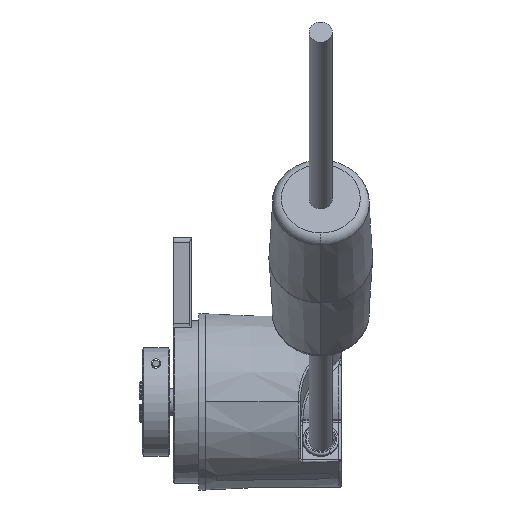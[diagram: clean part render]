
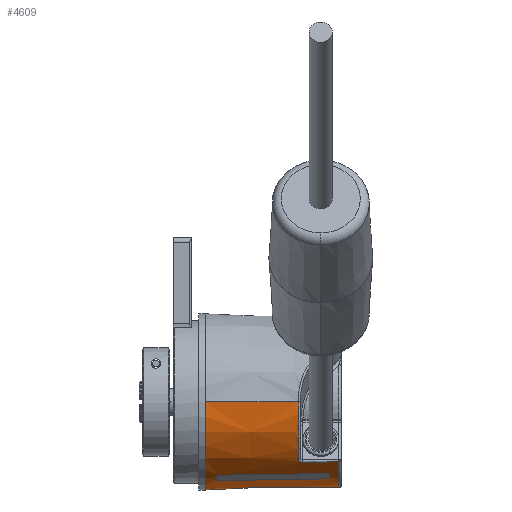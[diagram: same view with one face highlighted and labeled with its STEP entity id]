
A CAD part, front view. The second image highlights one B-rep face of the part: STEP entity #4609.
In plain terms, the highlighted conical face has half-angle 1 degrees and reference radius 18.976 mm.
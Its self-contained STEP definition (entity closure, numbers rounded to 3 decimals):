
#3656 = EDGE_CURVE ( 'NONE', #3727, #3673, #6396, .T. ) ;
#3673 = VERTEX_POINT ( 'NONE', #6537 ) ;
#3727 = VERTEX_POINT ( 'NONE', #6766 ) ;
#3729 = EDGE_CURVE ( 'NONE', #3727, #3730, #6765, .T. ) ;
#3730 = VERTEX_POINT ( 'NONE', #6778 ) ;
#3748 = VERTEX_POINT ( 'NONE', #6697 ) ;
#3750 = EDGE_CURVE ( 'NONE', #3751, #3748, #6696, .T. ) ;
#3751 = VERTEX_POINT ( 'NONE', #6692 ) ;
#4172 = VERTEX_POINT ( 'NONE', #7515 ) ;
#4174 = EDGE_CURVE ( 'NONE', #3673, #4172, #7494, .T. ) ;
#4264 = ORIENTED_EDGE ( 'NONE', *, *, #4272, .F. ) ;
#4265 = EDGE_CURVE ( 'NONE', #4517, #4523, #8202, .T. ) ;
#4266 = ORIENTED_EDGE ( 'NONE', *, *, #4625, .F. ) ;
#4272 = EDGE_CURVE ( 'NONE', #4518, #4522, #8476, .T. ) ;
#4430 = ORIENTED_EDGE ( 'NONE', *, *, #3750, .T. ) ;
#4431 = ORIENTED_EDGE ( 'NONE', *, *, #4497, .T. ) ;
#4432 = EDGE_LOOP ( 'NONE', ( #4433, #4447, #4266, #4264 ) ) ;
#4433 = ORIENTED_EDGE ( 'NONE', *, *, #4516, .F. ) ;
#4447 = ORIENTED_EDGE ( 'NONE', *, *, #4265, .T. ) ;
#4460 = EDGE_CURVE ( 'NONE', #4461, #3751, #9140, .T. ) ;
#4461 = VERTEX_POINT ( 'NONE', #9135 ) ;
#4491 = EDGE_CURVE ( 'NONE', #4461, #4172, #9447, .T. ) ;
#4497 = EDGE_CURVE ( 'NONE', #3748, #3730, #9320, .T. ) ;
#4516 = EDGE_CURVE ( 'NONE', #4517, #4518, #9426, .T. ) ;
#4517 = VERTEX_POINT ( 'NONE', #9425 ) ;
#4518 = VERTEX_POINT ( 'NONE', #9427 ) ;
#4522 = VERTEX_POINT ( 'NONE', #9353 ) ;
#4523 = VERTEX_POINT ( 'NONE', #9352 ) ;
#4547 = ORIENTED_EDGE ( 'NONE', *, *, #3729, .F. ) ;
#4557 = ORIENTED_EDGE ( 'NONE', *, *, #3656, .T. ) ;
#4609 = ADVANCED_FACE ( 'NONE', ( #9865, #9860 ), #9898, .T. ) ;
#4622 = EDGE_LOOP ( 'NONE', ( #4547, #4557, #4643, #4670, #4660, #4430, #4431 ) ) ;
#4625 = EDGE_CURVE ( 'NONE', #4522, #4523, #9802, .T. ) ;
#4643 = ORIENTED_EDGE ( 'NONE', *, *, #4174, .T. ) ;
#4660 = ORIENTED_EDGE ( 'NONE', *, *, #4460, .T. ) ;
#4670 = ORIENTED_EDGE ( 'NONE', *, *, #4491, .F. ) ;
#6388 = DIRECTION ( 'NONE',  ( 0., 1., 0. ) ) ;
#6389 = DIRECTION ( 'NONE',  ( -1., 0., 0. ) ) ;
#6390 = CARTESIAN_POINT ( 'NONE',  ( 41.709, 0., 0. ) ) ;
#6391 = AXIS2_PLACEMENT_3D ( 'NONE', #6390, #6389, #6388 ) ;
#6396 = CIRCLE ( 'NONE', #6391, 18.985 ) ;
#6537 = CARTESIAN_POINT ( 'NONE',  ( 41.709, -13.586, -13.261 ) ) ;
#6692 = CARTESIAN_POINT ( 'NONE',  ( 32.709, -19.142, 0. ) ) ;
#6693 = DIRECTION ( 'NONE',  ( -1., -0.017, 0. ) ) ;
#6694 = VECTOR ( 'NONE', #6693, 1000. ) ;
#6695 = CARTESIAN_POINT ( 'NONE',  ( 42.2, -18.976, 0. ) ) ;
#6696 = LINE ( 'NONE', #6695, #6694 ) ;
#6697 = CARTESIAN_POINT ( 'NONE',  ( 12.2, -19.5, 0. ) ) ;
#6764 = CARTESIAN_POINT ( 'NONE',  ( 42.2, 18.976, 0. ) ) ;
#6765 = LINE ( 'NONE', #6764, #6780 ) ;
#6766 = CARTESIAN_POINT ( 'NONE',  ( 41.709, 18.985, 0. ) ) ;
#6778 = CARTESIAN_POINT ( 'NONE',  ( 12.2, 19.5, 0. ) ) ;
#6779 = DIRECTION ( 'NONE',  ( -1., 0.017, 0. ) ) ;
#6780 = VECTOR ( 'NONE', #6779, 1000. ) ;
#7479 = CARTESIAN_POINT ( 'NONE',  ( 33.709, -13.658, -13.387 ) ) ;
#7480 = CARTESIAN_POINT ( 'NONE',  ( 34.709, -13.649, -13.371 ) ) ;
#7481 = CARTESIAN_POINT ( 'NONE',  ( 35.709, -13.64, -13.356 ) ) ;
#7482 = CARTESIAN_POINT ( 'NONE',  ( 36.71, -13.631, -13.34 ) ) ;
#7483 = CARTESIAN_POINT ( 'NONE',  ( 38.043, -13.619, -13.319 ) ) ;
#7484 = CARTESIAN_POINT ( 'NONE',  ( 39.376, -13.607, -13.298 ) ) ;
#7485 = CARTESIAN_POINT ( 'NONE',  ( 40.709, -13.595, -13.277 ) ) ;
#7486 = CARTESIAN_POINT ( 'NONE',  ( 41.042, -13.592, -13.271 ) ) ;
#7487 = CARTESIAN_POINT ( 'NONE',  ( 41.375, -13.589, -13.266 ) ) ;
#7488 = CARTESIAN_POINT ( 'NONE',  ( 41.709, -13.586, -13.261 ) ) ;
#7494 = B_SPLINE_CURVE_WITH_KNOTS ( 'NONE', 3,
 ( #7488, #7487, #7486, #7485, #7484, #7483, #7482, #7481, #7480, #7479 ),
 .UNSPECIFIED., .F., .F.,
 ( 4, 3, 3, 4 ),
 ( 0., 0.001, 0.005, 0.008 ),
 .UNSPECIFIED. ) ;
#7515 = CARTESIAN_POINT ( 'NONE',  ( 33.709, -13.658, -13.387 ) ) ;
#8024 = CARTESIAN_POINT ( 'NONE',  ( 39.7, 0., 0. ) ) ;
#8199 = DIRECTION ( 'NONE',  ( 0., -1., 0. ) ) ;
#8200 = DIRECTION ( 'NONE',  ( 1., 0., 0. ) ) ;
#8201 = AXIS2_PLACEMENT_3D ( 'NONE', #8024, #8200, #8199 ) ;
#8202 = CIRCLE ( 'NONE', #8201, 19.02 ) ;
#8372 = DIRECTION ( 'NONE',  ( 0., -1., 0. ) ) ;
#8473 = DIRECTION ( 'NONE',  ( 1., 0., 0. ) ) ;
#8474 = CARTESIAN_POINT ( 'NONE',  ( 14.7, 0., 0. ) ) ;
#8475 = AXIS2_PLACEMENT_3D ( 'NONE', #8474, #8473, #8372 ) ;
#8476 = CIRCLE ( 'NONE', #8475, 19.456 ) ;
#9135 = CARTESIAN_POINT ( 'NONE',  ( 32.709, -14.397, -12.615 ) ) ;
#9136 = DIRECTION ( 'NONE',  ( 0., 1., 0. ) ) ;
#9137 = DIRECTION ( 'NONE',  ( -1., 0., 0. ) ) ;
#9138 = CARTESIAN_POINT ( 'NONE',  ( 32.709, 0., 0. ) ) ;
#9139 = AXIS2_PLACEMENT_3D ( 'NONE', #9138, #9137, #9136 ) ;
#9140 = CIRCLE ( 'NONE', #9139, 19.142 ) ;
#9293 = CARTESIAN_POINT ( 'NONE',  ( 33.709, -13.658, -13.387 ) ) ;
#9294 = CARTESIAN_POINT ( 'NONE',  ( 33.572, -13.659, -13.389 ) ) ;
#9295 = CARTESIAN_POINT ( 'NONE',  ( 33.437, -13.681, -13.37 ) ) ;
#9296 = CARTESIAN_POINT ( 'NONE',  ( 33.19, -13.762, -13.293 ) ) ;
#9297 = CARTESIAN_POINT ( 'NONE',  ( 33.079, -13.821, -13.235 ) ) ;
#9298 = CARTESIAN_POINT ( 'NONE',  ( 32.898, -13.961, -13.091 ) ) ;
#9299 = CARTESIAN_POINT ( 'NONE',  ( 32.827, -14.044, -13.005 ) ) ;
#9300 = CARTESIAN_POINT ( 'NONE',  ( 32.733, -14.216, -12.819 ) ) ;
#9312 = DIRECTION ( 'NONE',  ( 0., 1., 0. ) ) ;
#9313 = DIRECTION ( 'NONE',  ( 1., 0., 0. ) ) ;
#9314 = CARTESIAN_POINT ( 'NONE',  ( 12.2, 0., 0. ) ) ;
#9315 = AXIS2_PLACEMENT_3D ( 'NONE', #9314, #9313, #9312 ) ;
#9320 = CIRCLE ( 'NONE', #9315, 19.5 ) ;
#9352 = CARTESIAN_POINT ( 'NONE',  ( 39.7, -8.474, -17.028 ) ) ;
#9353 = CARTESIAN_POINT ( 'NONE',  ( 14.7, -8.68, -17.413 ) ) ;
#9420 = CARTESIAN_POINT ( 'NONE',  ( 14.7, -10.74, -16.224 ) ) ;
#9421 = CARTESIAN_POINT ( 'NONE',  ( 23.033, -10.663, -16.1 ) ) ;
#9422 = CARTESIAN_POINT ( 'NONE',  ( 31.367, -10.586, -15.976 ) ) ;
#9423 = CARTESIAN_POINT ( 'NONE',  ( 39.7, -10.51, -15.853 ) ) ;
#9425 = CARTESIAN_POINT ( 'NONE',  ( 39.7, -10.51, -15.853 ) ) ;
#9426 = B_SPLINE_CURVE_WITH_KNOTS ( 'NONE', 3,
 ( #9423, #9422, #9421, #9420 ),
 .UNSPECIFIED., .F., .F.,
 ( 4, 4 ),
 ( 0., 0.025 ),
 .UNSPECIFIED. ) ;
#9427 = CARTESIAN_POINT ( 'NONE',  ( 14.7, -10.74, -16.224 ) ) ;
#9437 = CARTESIAN_POINT ( 'NONE',  ( 32.709, -14.307, -12.718 ) ) ;
#9438 = CARTESIAN_POINT ( 'NONE',  ( 32.709, -14.397, -12.615 ) ) ;
#9447 = B_SPLINE_CURVE_WITH_KNOTS ( 'NONE', 3,
 ( #9438, #9437, #9300, #9299, #9298, #9297, #9296, #9295, #9294, #9293 ),
 .UNSPECIFIED., .F., .F.,
 ( 4, 2, 2, 2, 4 ),
 ( 0., 0., 0.001, 0.001, 0.002 ),
 .UNSPECIFIED. ) ;
#9797 = CARTESIAN_POINT ( 'NONE',  ( 39.7, -8.474, -17.028 ) ) ;
#9798 = CARTESIAN_POINT ( 'NONE',  ( 31.367, -8.543, -17.156 ) ) ;
#9799 = CARTESIAN_POINT ( 'NONE',  ( 23.033, -8.611, -17.284 ) ) ;
#9800 = CARTESIAN_POINT ( 'NONE',  ( 14.7, -8.68, -17.413 ) ) ;
#9802 = B_SPLINE_CURVE_WITH_KNOTS ( 'NONE', 3,
 ( #9800, #9799, #9798, #9797 ),
 .UNSPECIFIED., .F., .F.,
 ( 4, 4 ),
 ( 0., 0.025 ),
 .UNSPECIFIED. ) ;
#9860 = FACE_BOUND ( 'NONE', #4432, .T. ) ;
#9865 = FACE_OUTER_BOUND ( 'NONE', #4622, .T. ) ;
#9892 = DIRECTION ( 'NONE',  ( 0., -1., 0. ) ) ;
#9893 = DIRECTION ( 'NONE',  ( -1., 0., 0. ) ) ;
#9894 = CARTESIAN_POINT ( 'NONE',  ( 42.2, 0., 0. ) ) ;
#9895 = AXIS2_PLACEMENT_3D ( 'NONE', #9894, #9893, #9892 ) ;
#9898 = CONICAL_SURFACE ( 'NONE', #9895, 18.976, 0.017 ) ;
